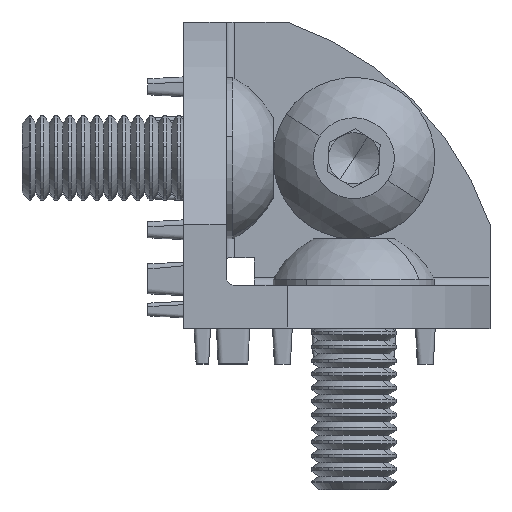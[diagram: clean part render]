
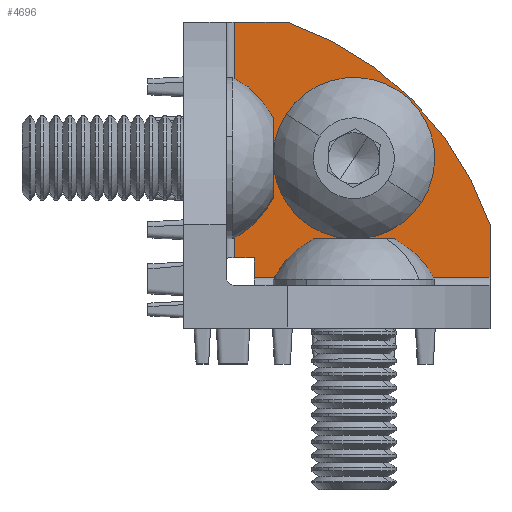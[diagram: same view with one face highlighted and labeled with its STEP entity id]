
A CAD part, top view. The second image highlights one B-rep face of the part: STEP entity #4696.
In plain terms, the highlighted planar face has unit normal (0, 0, 1).
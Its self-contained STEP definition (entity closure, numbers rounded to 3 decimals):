
#75 = VECTOR ( 'NONE', #7526, 1000. ) ;
#162 = EDGE_CURVE ( 'NONE', #2124, #5174, #3994, .T. ) ;
#233 = VECTOR ( 'NONE', #3329, 1000. ) ;
#289 = VERTEX_POINT ( 'NONE', #3487 ) ;
#687 = EDGE_CURVE ( 'NONE', #4744, #1132, #5824, .T. ) ;
#708 = PLANE ( 'NONE',  #5318 ) ;
#1000 = ORIENTED_EDGE ( 'NONE', *, *, #687, .T. ) ;
#1070 = CARTESIAN_POINT ( 'NONE',  ( 3., 18., 2.5 ) ) ;
#1081 = AXIS2_PLACEMENT_3D ( 'NONE', #1668, #10249, #3474 ) ;
#1132 = VERTEX_POINT ( 'NONE', #8756 ) ;
#1268 = LINE ( 'NONE', #10246, #5413 ) ;
#1417 = CARTESIAN_POINT ( 'NONE',  ( 18., 3., 2.5 ) ) ;
#1475 = CARTESIAN_POINT ( 'NONE',  ( 4.145, 3., 2.5 ) ) ;
#1502 = DIRECTION ( 'NONE',  ( 1., 0., 0. ) ) ;
#1668 = CARTESIAN_POINT ( 'NONE',  ( 10., 10., 2.5 ) ) ;
#1725 = DIRECTION ( 'NONE',  ( -1., 0., 0. ) ) ;
#1932 = VECTOR ( 'NONE', #10298, 1000. ) ;
#1979 = ORIENTED_EDGE ( 'NONE', *, *, #2767, .F. ) ;
#2060 = ORIENTED_EDGE ( 'NONE', *, *, #9574, .T. ) ;
#2124 = VERTEX_POINT ( 'NONE', #8032 ) ;
#2147 = CIRCLE ( 'NONE', #6017, 3.15 ) ;
#2168 = EDGE_CURVE ( 'NONE', #289, #5260, #2446, .T. ) ;
#2446 = LINE ( 'NONE', #10813, #75 ) ;
#2451 = LINE ( 'NONE', #1475, #233 ) ;
#2510 = CARTESIAN_POINT ( 'NONE',  ( 4.145, 4.145, 2.5 ) ) ;
#2767 = EDGE_CURVE ( 'NONE', #2124, #3262, #5237, .T. ) ;
#2804 = DIRECTION ( 'NONE',  ( -1., 0., 0. ) ) ;
#2817 = EDGE_LOOP ( 'NONE', ( #1000, #2060 ) ) ;
#3059 = VERTEX_POINT ( 'NONE', #4794 ) ;
#3210 = CARTESIAN_POINT ( 'NONE',  ( 0., 0., 2.5 ) ) ;
#3262 = VERTEX_POINT ( 'NONE', #7278 ) ;
#3329 = DIRECTION ( 'NONE',  ( 0., -1., 0. ) ) ;
#3474 = DIRECTION ( 'NONE',  ( -1., 0., 0. ) ) ;
#3487 = CARTESIAN_POINT ( 'NONE',  ( 6.083, 18., 2.5 ) ) ;
#3942 = CARTESIAN_POINT ( 'NONE',  ( 18., 3., 2.5 ) ) ;
#3970 = LINE ( 'NONE', #10076, #7972 ) ;
#3978 = EDGE_CURVE ( 'NONE', #3059, #10404, #3970, .T. ) ;
#3994 = LINE ( 'NONE', #3942, #10374 ) ;
#3997 = CARTESIAN_POINT ( 'NONE',  ( 13.15, 10., 2.5 ) ) ;
#4139 = DIRECTION ( 'NONE',  ( 0., 0., -1. ) ) ;
#4568 = CARTESIAN_POINT ( 'NONE',  ( 18., 6.083, 2.5 ) ) ;
#4696 = ADVANCED_FACE ( 'NONE', ( #5815, #7374 ), #708, .F. ) ;
#4744 = VERTEX_POINT ( 'NONE', #3997 ) ;
#4794 = CARTESIAN_POINT ( 'NONE',  ( 3., 4.145, 2.5 ) ) ;
#5174 = VERTEX_POINT ( 'NONE', #4568 ) ;
#5237 = LINE ( 'NONE', #9374, #1932 ) ;
#5260 = VERTEX_POINT ( 'NONE', #1070 ) ;
#5318 = AXIS2_PLACEMENT_3D ( 'NONE', #1417, #9994, #6542 ) ;
#5413 = VECTOR ( 'NONE', #10191, 1000. ) ;
#5653 = CIRCLE ( 'NONE', #6541, 19. ) ;
#5815 = FACE_BOUND ( 'NONE', #2817, .T. ) ;
#5824 = CIRCLE ( 'NONE', #1081, 3.15 ) ;
#5902 = ORIENTED_EDGE ( 'NONE', *, *, #8231, .F. ) ;
#5906 = ORIENTED_EDGE ( 'NONE', *, *, #9064, .F. ) ;
#6009 = CARTESIAN_POINT ( 'NONE',  ( 10., 10., 2.5 ) ) ;
#6017 = AXIS2_PLACEMENT_3D ( 'NONE', #6009, #10345, #2804 ) ;
#6541 = AXIS2_PLACEMENT_3D ( 'NONE', #3210, #4139, #1725 ) ;
#6542 = DIRECTION ( 'NONE',  ( 0., -1., 0. ) ) ;
#6717 = ORIENTED_EDGE ( 'NONE', *, *, #10157, .T. ) ;
#6963 = ORIENTED_EDGE ( 'NONE', *, *, #3978, .T. ) ;
#7278 = CARTESIAN_POINT ( 'NONE',  ( 4.145, 3., 2.5 ) ) ;
#7374 = FACE_OUTER_BOUND ( 'NONE', #7628, .T. ) ;
#7422 = DIRECTION ( 'NONE',  ( 0., 1., 0. ) ) ;
#7526 = DIRECTION ( 'NONE',  ( -1., 0., 0. ) ) ;
#7628 = EDGE_LOOP ( 'NONE', ( #6963, #6717, #1979, #9937, #5906, #8449, #5902 ) ) ;
#7972 = VECTOR ( 'NONE', #1502, 1000. ) ;
#8032 = CARTESIAN_POINT ( 'NONE',  ( 18., 3., 2.5 ) ) ;
#8231 = EDGE_CURVE ( 'NONE', #3059, #5260, #1268, .T. ) ;
#8449 = ORIENTED_EDGE ( 'NONE', *, *, #2168, .T. ) ;
#8756 = CARTESIAN_POINT ( 'NONE',  ( 6.85, 10., 2.5 ) ) ;
#9064 = EDGE_CURVE ( 'NONE', #289, #5174, #5653, .T. ) ;
#9374 = CARTESIAN_POINT ( 'NONE',  ( 18., 3., 2.5 ) ) ;
#9574 = EDGE_CURVE ( 'NONE', #1132, #4744, #2147, .T. ) ;
#9937 = ORIENTED_EDGE ( 'NONE', *, *, #162, .T. ) ;
#9994 = DIRECTION ( 'NONE',  ( 0., 0., -1. ) ) ;
#10076 = CARTESIAN_POINT ( 'NONE',  ( 18., 4.145, 2.5 ) ) ;
#10157 = EDGE_CURVE ( 'NONE', #10404, #3262, #2451, .T. ) ;
#10191 = DIRECTION ( 'NONE',  ( 0., 1., 0. ) ) ;
#10246 = CARTESIAN_POINT ( 'NONE',  ( 3., 3., 2.5 ) ) ;
#10249 = DIRECTION ( 'NONE',  ( 0., 0., -1. ) ) ;
#10298 = DIRECTION ( 'NONE',  ( -1., 0., 0. ) ) ;
#10345 = DIRECTION ( 'NONE',  ( 0., 0., -1. ) ) ;
#10374 = VECTOR ( 'NONE', #7422, 1000. ) ;
#10404 = VERTEX_POINT ( 'NONE', #2510 ) ;
#10813 = CARTESIAN_POINT ( 'NONE',  ( 18., 18., 2.5 ) ) ;
